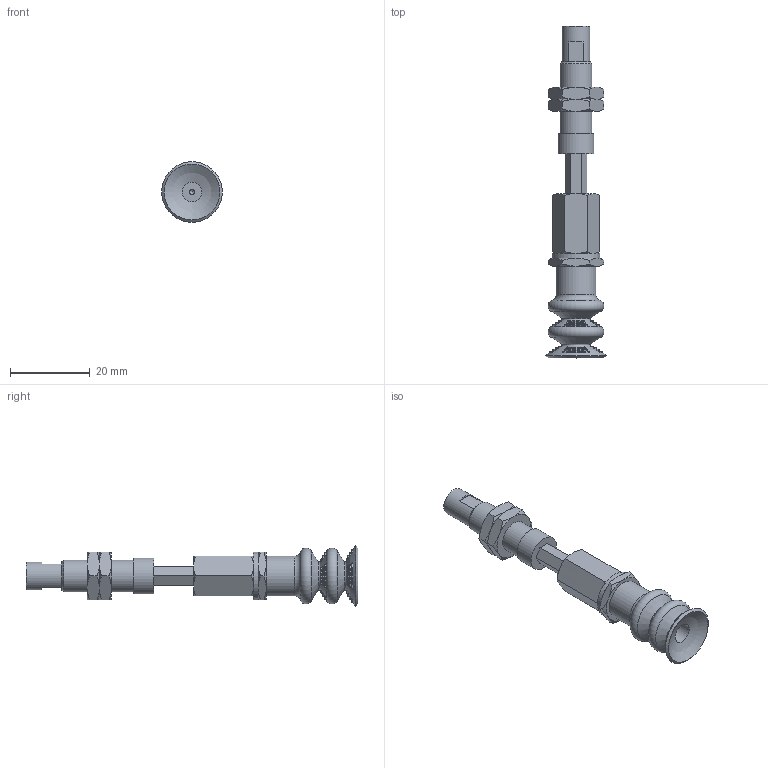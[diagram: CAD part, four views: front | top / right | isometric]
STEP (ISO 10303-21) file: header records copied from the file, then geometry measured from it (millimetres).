
FILE_DESCRIPTION(('STEP AP203'),'1');
FILE_NAME('.stp','2025-08-27T01:52:18',(' '),(' '),'Spatial InterOp 3D',' ',' ');
FILE_SCHEMA(('CONFIG_CONTROL_DESIGN'));
Length unit declared in the file: millimetre
Products named in the file (7): BNABPCTH-15-10-※; ADAPTER; NAPCTH-10-10-MBODY; Adapter_napc-15-T; Nut napc_h-15-10; NAPCTH-15-10-FBODY; BPCG-15-※
Assembly tree (7 placements, depth 2):
  BNABPCTH-15-10-※
    ADAPTER
    NAPCTH-10-10-MBODY
    Adapter_napc-15-T
    Nut napc_h-15-10  x2
    NAPCTH-15-10-FBODY
    BPCG-15-※
Bounding box: 15.2 x 83.2 x 15.2 mm (x, y, z)
Volume: 5581.2 mm3; surface area: 5680.6 mm2
Topology: 7 solids, 7 shells, 230 faces, 688 edges, 443 vertices
Faces by surface type: cone 63, plane 60, sphere 58, torus 34, cylinder 15
Full cylindrical faces by diameter (mm): 1.25 x1, 4.134 x2, 5 x5, 7 x1, 7.188 x2, 8 x1, 9 x1, 10 x1, 12 x1
Entity records: 6643 total; most frequent: CARTESIAN_POINT 1919, DIRECTION 950, ORIENTED_EDGE 822, AXIS2_PLACEMENT_3D 444, EDGE_CURVE 411, VERTEX_POINT 286, EDGE_LOOP 284, FACE_OUTER_BOUND 229
